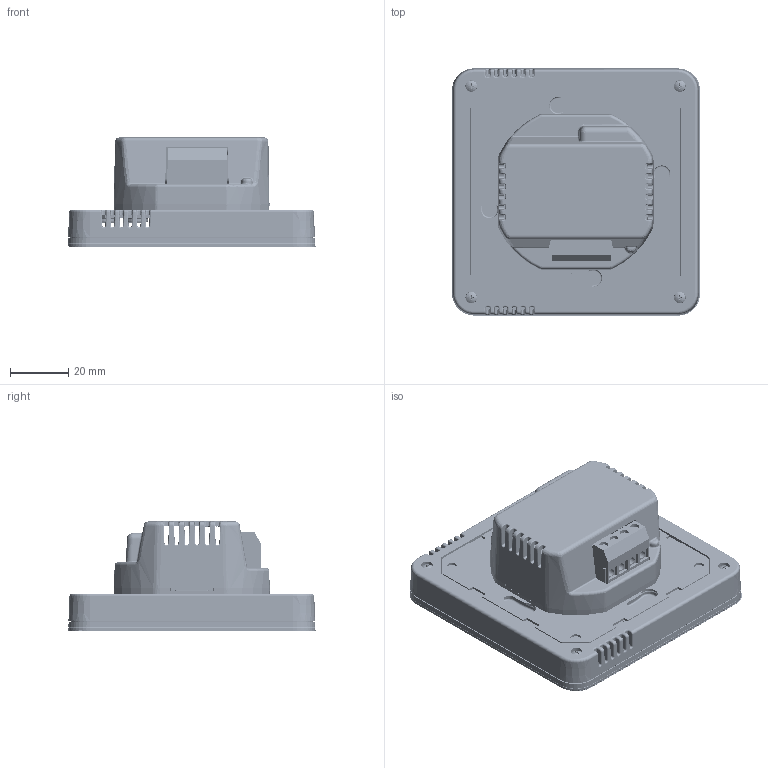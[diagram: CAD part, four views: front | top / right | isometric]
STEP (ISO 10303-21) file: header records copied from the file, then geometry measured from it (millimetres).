
FILE_DESCRIPTION(/* description */ (''),/* implementation_level */ '2;1');
FILE_NAME(/* name */ 'WS-02.step',/* time_stamp */ '2026-01-26T20:54:23+01:00',/* author */ (''),/* organization */ (''),/* preprocessor_version */ 'ST-DEVELOPER v20.1',/* originating_system */ 'Autodesk Translation Framework v14.24.0.0',/* authorisation */ '');
FILE_SCHEMA (('AUTOMOTIVE_DESIGN { 1 0 10303 214 3 1 1 }'));
Products named in the file (17): przełącznik szklany; PŁYTKA _dotyk_podswietlana; szkło; OP-1020_C; switch kątowy cienk2i; tył klawisz; OP-1398_C; Blacha1.2; OP-1399_A; łączka 5; DIN ISO 7049 - C-H ST2.2 x 9.5 - C - H; LOGO; WS-03_  FARBA; OP-1020_D; PODSWIETLENIE; Wkręt do tworzyw 2,2x6; Komponent16
Assembly tree (26 placements, depth 3):
  przełącznik szklany
    PŁYTKA _dotyk_podswietlana
    szkło
    OP-1020_C
    switch kątowy cienk2i
    PODSWIETLENIE  x4
    tył klawisz
      OP-1398_C
      łączka 5  x4
      Blacha1.2
      OP-1399_A
      DIN ISO 7049 - C-H ST2.2 x 9.5 - C - H  x2
    Wkręt do tworzyw 2,2x6  x4
    LOGO
    WS-03_  FARBA
    OP-1020_D
    Komponent16
Bounding box: 84.82 x 84.59 x 37.32 mm (x, y, z)
Volume: 66185.5 mm3; surface area: 107335.5 mm2
Topology: 70 solids, 70 shells, 11249 faces, 32200 edges, 21192 vertices
Faces by surface type: cone 6576, plane 2784, bspline 865, cylinder 743, torus 250, sphere 31
Full cylindrical faces by diameter (mm): 0.1 x1, 0.8 x2, 0.9 x5, 1 x4, 1.43 x4, 2 x9, 2.2 x6, 2.3 x4, 2.4 x2, 2.702 x4, 3 x5, 3.5 x4, 4 x4, 4.6 x2, 6 x1
Entity records: 201412 total; most frequent: CARTESIAN_POINT 58966, ORIENTED_EDGE 29196, DIRECTION 27306, EDGE_CURVE 14598, VERTEX_POINT 10531, LINE 9130, VECTOR 9130, AXIS2_PLACEMENT_3D 9088
